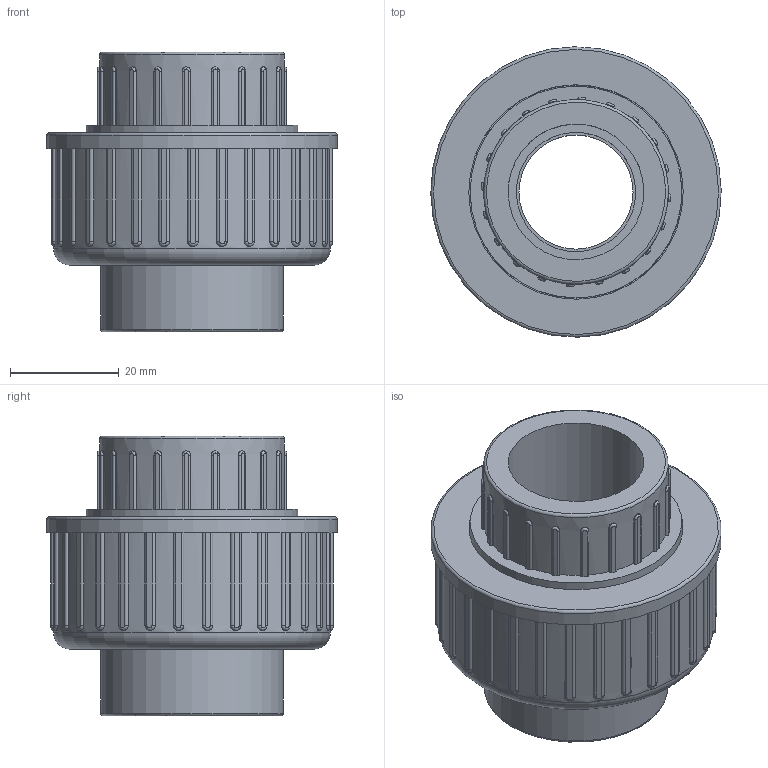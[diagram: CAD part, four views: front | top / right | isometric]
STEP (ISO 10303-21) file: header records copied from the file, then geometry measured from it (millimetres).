
FILE_DESCRIPTION(/* description */ (''),/* implementation_level */ '2;1');
FILE_NAME(/* name */ 'C:\Users\POLYPIPE\Desktop\DATASET INVENTOR\LIBRERIA EFFAST\3D_RACCORDI\RDR\3D_RDRBOD\3D_RDRBOD0250.stp',/* time_stamp */ '2018-01-22T10:24:03+01:00',/* author */ ('POLYPIPE'),/* organization */ (''),/* preprocessor_version */ 'ST-DEVELOPER v16.1',/* originating_system */ 'Autodesk Inventor 2016',/* authorisation */ '');
FILE_SCHEMA (('CONFIG_CONTROL_DESIGN'));
Length unit declared in the file: centimetre
Products named in the file (1): 3D_RDRBOD
Bounding box: 53.5 x 53.5 x 51.5 mm (x, y, z)
Volume: 50686.1 mm3; surface area: 20609.9 mm2
Topology: 1 solids, 1 shells, 286 faces, 801 edges, 526 vertices
Faces by surface type: cylinder 131, plane 101, bspline 50, torus 4
Full cylindrical faces by diameter (mm): 21 x1, 22 x1, 25 x2, 33.7 x1, 34 x1, 36.4 x1, 39 x1, 39.5 x1, 51 x1, 53.5 x1
Entity records: 10925 total; most frequent: CARTESIAN_POINT 3315, ORIENTED_EDGE 1568, DIRECTION 1532, EDGE_CURVE 784, AXIS2_PLACEMENT_3D 581, VERTEX_POINT 524, LINE 370, VECTOR 370
